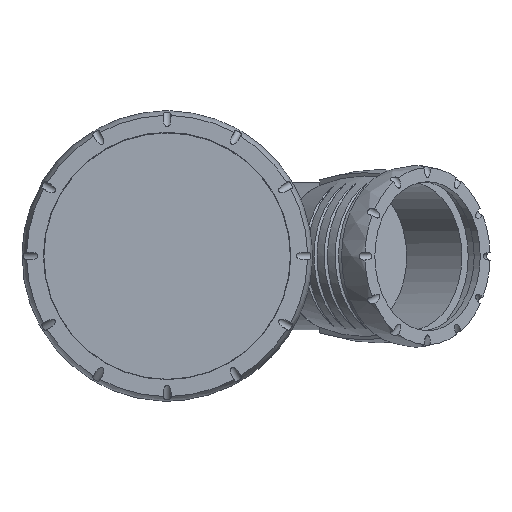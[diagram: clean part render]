
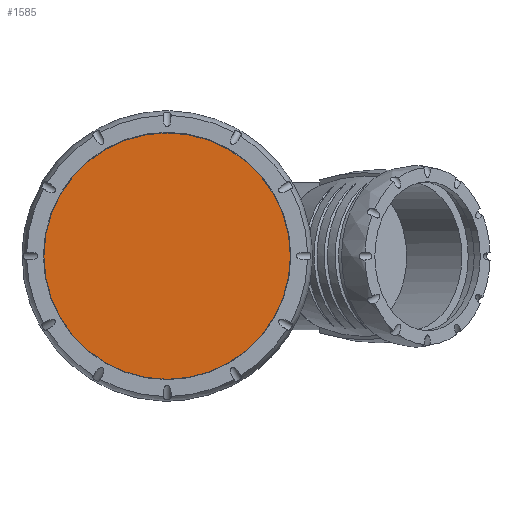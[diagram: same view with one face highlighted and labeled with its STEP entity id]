
A CAD part, top view. The second image highlights one B-rep face of the part: STEP entity #1585.
In plain terms, the highlighted planar face has unit normal (0, 0, 1).
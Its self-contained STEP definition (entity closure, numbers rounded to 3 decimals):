
#216=PLANE('',#1710);
#292=FACE_OUTER_BOUND('',#399,.T.);
#399=EDGE_LOOP('',(#1011));
#534=CIRCLE('',#1711,63.);
#607=VERTEX_POINT('',#2294);
#775=EDGE_CURVE('',#607,#607,#534,.T.);
#1011=ORIENTED_EDGE('',*,*,#775,.T.);
#1585=ADVANCED_FACE('',(#292),#216,.T.);
#1710=AXIS2_PLACEMENT_3D('',#2293,#1894,#1895);
#1711=AXIS2_PLACEMENT_3D('',#2295,#1896,#1897);
#1894=DIRECTION('center_axis',(0.,0.,
1.));
#1895=DIRECTION('ref_axis',(0.,1.,0.));
#1896=DIRECTION('center_axis',(0.,0.,
1.));
#1897=DIRECTION('ref_axis',(0.,1.,0.));
#2293=CARTESIAN_POINT('Origin',(0.,0.,
204.87));
#2294=CARTESIAN_POINT('',(-63.,0.,204.87));
#2295=CARTESIAN_POINT('Origin',(0.,0.,
204.87));
